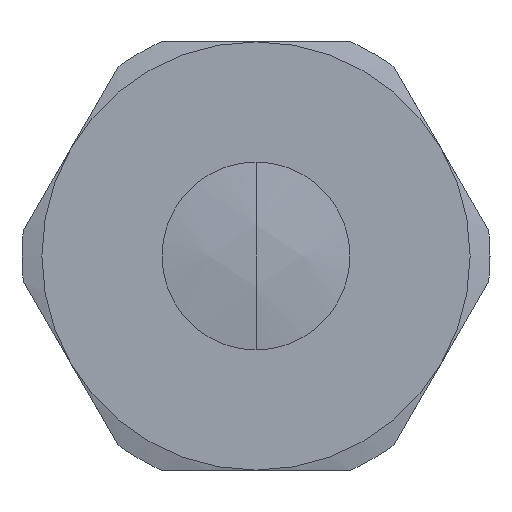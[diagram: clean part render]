
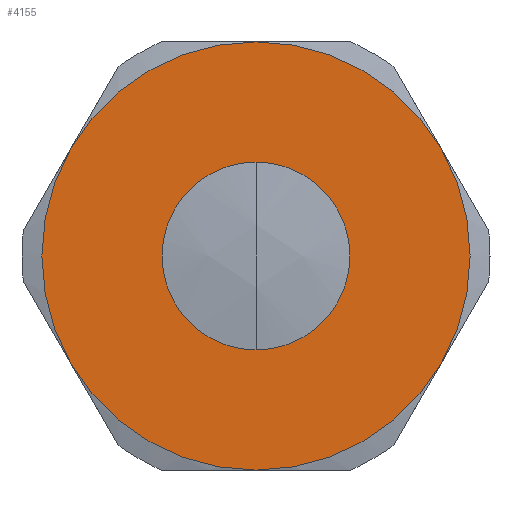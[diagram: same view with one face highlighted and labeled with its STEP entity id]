
A CAD part, left-side view. The second image highlights one B-rep face of the part: STEP entity #4155.
In plain terms, the highlighted planar face has unit normal (-1, 0, 0).
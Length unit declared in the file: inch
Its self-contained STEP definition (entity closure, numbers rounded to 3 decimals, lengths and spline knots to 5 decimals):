
#2539=CARTESIAN_POINT('',(-2.,-0.2195,0.0));
#2540=VERTEX_POINT('',#2539);
#2549=CARTESIAN_POINT('',(-2.,0.2195,0.));
#2550=VERTEX_POINT('',#2549);
#2551=CARTESIAN_POINT('',(-2.,0.,0.0));
#2552=DIRECTION('',(1.0,0.0,0.0));
#2553=DIRECTION('',(0.0,-1.0,0.0));
#2554=AXIS2_PLACEMENT_3D('',#2551,#2552,#2553);
#2555=CIRCLE('',#2554,0.2195);
#2556=EDGE_CURVE('',#2550,#2540,#2555,.T.);
#2590=CARTESIAN_POINT('',(-2.,0.,0.0));
#2591=DIRECTION('',(1.0,0.0,0.0));
#2592=DIRECTION('',(0.0,-1.0,0.0));
#2593=AXIS2_PLACEMENT_3D('',#2590,#2591,#2592);
#2594=CIRCLE('',#2593,0.2195);
#2595=EDGE_CURVE('',#2540,#2550,#2594,.T.);
#3537=CARTESIAN_POINT('',(-2.,-0.43301,-0.25));
#3538=VERTEX_POINT('',#3537);
#3562=CARTESIAN_POINT('',(-2.,-0.43301,0.25));
#3563=VERTEX_POINT('',#3562);
#3577=CARTESIAN_POINT('',(-2.,0.,0.0));
#3578=DIRECTION('',(-1.0,0.0,0.0));
#3579=DIRECTION('',(0.0,0.0,1.0));
#3580=AXIS2_PLACEMENT_3D('',#3577,#3578,#3579);
#3581=CIRCLE('',#3580,0.5);
#3582=EDGE_CURVE('',#3538,#3563,#3581,.T.);
#3592=CARTESIAN_POINT('',(-2.,0.,-0.5));
#3593=VERTEX_POINT('',#3592);
#3630=CARTESIAN_POINT('',(-2.,0.,0.0));
#3631=DIRECTION('',(-1.0,0.0,0.0));
#3632=DIRECTION('',(0.0,0.0,1.0));
#3633=AXIS2_PLACEMENT_3D('',#3630,#3631,#3632);
#3634=CIRCLE('',#3633,0.5);
#3635=EDGE_CURVE('',#3593,#3538,#3634,.T.);
#3660=CARTESIAN_POINT('',(-2.,0.43301,-0.25));
#3661=VERTEX_POINT('',#3660);
#3662=CARTESIAN_POINT('',(-2.,0.,0.0));
#3663=DIRECTION('',(-1.0,0.0,0.0));
#3664=DIRECTION('',(0.0,0.0,1.0));
#3665=AXIS2_PLACEMENT_3D('',#3662,#3663,#3664);
#3666=CIRCLE('',#3665,0.5);
#3667=EDGE_CURVE('',#3661,#3593,#3666,.T.);
#3713=CARTESIAN_POINT('',(-2.,0.43301,0.25));
#3714=VERTEX_POINT('',#3713);
#3715=CARTESIAN_POINT('',(-2.,0.,0.0));
#3716=DIRECTION('',(-1.0,0.0,0.0));
#3717=DIRECTION('',(0.0,0.0,1.0));
#3718=AXIS2_PLACEMENT_3D('',#3715,#3716,#3717);
#3719=CIRCLE('',#3718,0.5);
#3720=EDGE_CURVE('',#3714,#3661,#3719,.T.);
#3766=CARTESIAN_POINT('',(-2.,0.,0.5));
#3767=VERTEX_POINT('',#3766);
#3768=CARTESIAN_POINT('',(-2.,0.,0.0));
#3769=DIRECTION('',(-1.0,0.0,0.0));
#3770=DIRECTION('',(0.0,0.0,1.0));
#3771=AXIS2_PLACEMENT_3D('',#3768,#3769,#3770);
#3772=CIRCLE('',#3771,0.5);
#3773=EDGE_CURVE('',#3767,#3714,#3772,.T.);
#3819=CARTESIAN_POINT('',(-2.,0.,0.0));
#3820=DIRECTION('',(-1.0,0.0,0.0));
#3821=DIRECTION('',(0.0,0.0,1.0));
#3822=AXIS2_PLACEMENT_3D('',#3819,#3820,#3821);
#3823=CIRCLE('',#3822,0.5);
#3824=EDGE_CURVE('',#3563,#3767,#3823,.T.);
#4138=CARTESIAN_POINT('',(-2.,0.,0.));
#4139=DIRECTION('',(-1.0,0.0,0.0));
#4140=DIRECTION('',(0.0,0.0,1.0));
#4141=AXIS2_PLACEMENT_3D('',#4138,#4139,#4140);
#4142=PLANE('',#4141);
#4143=ORIENTED_EDGE('',*,*,#3824,.T.);
#4144=ORIENTED_EDGE('',*,*,#3773,.T.);
#4145=ORIENTED_EDGE('',*,*,#3720,.T.);
#4146=ORIENTED_EDGE('',*,*,#3667,.T.);
#4147=ORIENTED_EDGE('',*,*,#3635,.T.);
#4148=ORIENTED_EDGE('',*,*,#3582,.T.);
#4149=EDGE_LOOP('',(#4143,#4144,#4145,#4146,#4147,#4148));
#4150=FACE_OUTER_BOUND('',#4149,.T.);
#4151=ORIENTED_EDGE('',*,*,#2595,.T.);
#4152=ORIENTED_EDGE('',*,*,#2556,.T.);
#4153=EDGE_LOOP('',(#4151,#4152));
#4154=FACE_BOUND('',#4153,.T.);
#4155=ADVANCED_FACE('',(#4150,#4154),#4142,.T.);
